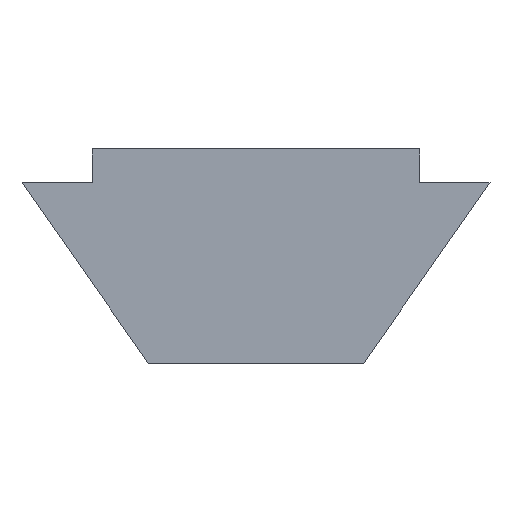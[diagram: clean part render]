
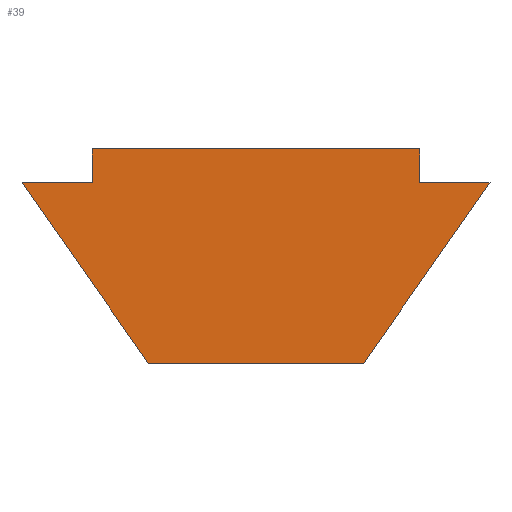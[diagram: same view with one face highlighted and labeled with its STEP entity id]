
A CAD part, front view. The second image highlights one B-rep face of the part: STEP entity #39.
In plain terms, the highlighted planar face has unit normal (0, -1, 0) as drawn and (0, 1, 0) by its records, which use the part's own axes.
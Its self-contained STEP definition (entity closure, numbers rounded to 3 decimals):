
#39=ADVANCED_FACE('',(#51),#429,.T.);
#51=FACE_OUTER_BOUND('',#65,.T.);
#65=EDGE_LOOP('',(#112,#113,#114,#115,#116,#117,#118,#119));
#112=ORIENTED_EDGE('',*,*,#286,.F.);
#113=ORIENTED_EDGE('',*,*,#290,.F.);
#114=ORIENTED_EDGE('',*,*,#295,.F.);
#115=ORIENTED_EDGE('',*,*,#298,.F.);
#116=ORIENTED_EDGE('',*,*,#301,.F.);
#117=ORIENTED_EDGE('',*,*,#304,.F.);
#118=ORIENTED_EDGE('',*,*,#309,.F.);
#119=ORIENTED_EDGE('',*,*,#311,.F.);
#136=PCURVE('',#420,#196);
#140=PCURVE('',#421,#200);
#146=PCURVE('',#422,#206);
#150=PCURVE('',#423,#210);
#154=PCURVE('',#424,#214);
#158=PCURVE('',#425,#218);
#164=PCURVE('',#426,#224);
#168=PCURVE('',#427,#228);
#178=PCURVE('',#429,#238);
#179=PCURVE('',#429,#239);
#180=PCURVE('',#429,#240);
#181=PCURVE('',#429,#241);
#182=PCURVE('',#429,#242);
#183=PCURVE('',#429,#243);
#184=PCURVE('',#429,#244);
#185=PCURVE('',#429,#245);
#196=DEFINITIONAL_REPRESENTATION('',(#319),#831);
#200=DEFINITIONAL_REPRESENTATION('',(#327),#831);
#206=DEFINITIONAL_REPRESENTATION('',(#336),#831);
#210=DEFINITIONAL_REPRESENTATION('',(#343),#831);
#214=DEFINITIONAL_REPRESENTATION('',(#350),#831);
#218=DEFINITIONAL_REPRESENTATION('',(#357),#831);
#224=DEFINITIONAL_REPRESENTATION('',(#366),#831);
#228=DEFINITIONAL_REPRESENTATION('',(#372),#831);
#238=DEFINITIONAL_REPRESENTATION('',(#382),#831);
#239=DEFINITIONAL_REPRESENTATION('',(#383),#831);
#240=DEFINITIONAL_REPRESENTATION('',(#384),#831);
#241=DEFINITIONAL_REPRESENTATION('',(#385),#831);
#242=DEFINITIONAL_REPRESENTATION('',(#386),#831);
#243=DEFINITIONAL_REPRESENTATION('',(#387),#831);
#244=DEFINITIONAL_REPRESENTATION('',(#388),#831);
#245=DEFINITIONAL_REPRESENTATION('',(#389),#831);
#256=SURFACE_CURVE('',#318,(#136,#178),.PCURVE_S1.);
#260=SURFACE_CURVE('',#326,(#140,#179),.PCURVE_S1.);
#265=SURFACE_CURVE('',#335,(#146,#180),.PCURVE_S1.);
#268=SURFACE_CURVE('',#342,(#150,#181),.PCURVE_S1.);
#271=SURFACE_CURVE('',#349,(#154,#182),.PCURVE_S1.);
#274=SURFACE_CURVE('',#356,(#158,#183),.PCURVE_S1.);
#279=SURFACE_CURVE('',#365,(#164,#184),.PCURVE_S1.);
#281=SURFACE_CURVE('',#371,(#168,#185),.PCURVE_S1.);
#286=EDGE_CURVE('',#400,#401,#256,.T.);
#290=EDGE_CURVE('',#403,#400,#260,.T.);
#295=EDGE_CURVE('',#405,#403,#265,.T.);
#298=EDGE_CURVE('',#407,#405,#268,.T.);
#301=EDGE_CURVE('',#409,#407,#271,.T.);
#304=EDGE_CURVE('',#411,#409,#274,.T.);
#309=EDGE_CURVE('',#413,#411,#279,.T.);
#311=EDGE_CURVE('',#401,#413,#281,.T.);
#318=B_SPLINE_CURVE_WITH_KNOTS('',1,(#577,#578),.UNSPECIFIED.,.F.,.F.,(2,
2),(0.,3.906),.UNSPECIFIED.);
#319=B_SPLINE_CURVE_WITH_KNOTS('',1,(#579,#580),.UNSPECIFIED.,.F.,.F.,(2,
2),(0.,3.906),.UNSPECIFIED.);
#326=B_SPLINE_CURVE_WITH_KNOTS('',1,(#593,#594),.UNSPECIFIED.,.F.,.F.,(2,
2),(-3.819,0.),.UNSPECIFIED.);
#327=B_SPLINE_CURVE_WITH_KNOTS('',1,(#595,#596),.UNSPECIFIED.,.F.,.F.,(2,
2),(-3.819,0.),.UNSPECIFIED.);
#335=B_SPLINE_CURVE_WITH_KNOTS('',1,(#655,#656),.UNSPECIFIED.,.F.,.F.,(2,
2),(-7.725,-3.819),.UNSPECIFIED.);
#336=B_SPLINE_CURVE_WITH_KNOTS('',1,(#657,#658),.UNSPECIFIED.,.F.,.F.,(2,
2),(-7.725,-3.819),.UNSPECIFIED.);
#342=B_SPLINE_CURVE_WITH_KNOTS('',1,(#669,#670),.UNSPECIFIED.,.F.,.F.,(2,
2),(-8.975,-7.725),.UNSPECIFIED.);
#343=B_SPLINE_CURVE_WITH_KNOTS('',1,(#671,#672),.UNSPECIFIED.,.F.,.F.,(2,
2),(-8.975,-7.725),.UNSPECIFIED.);
#349=B_SPLINE_CURVE_WITH_KNOTS('',1,(#683,#684),.UNSPECIFIED.,.F.,.F.,(2,
2),(-9.575,-8.975),.UNSPECIFIED.);
#350=B_SPLINE_CURVE_WITH_KNOTS('',1,(#685,#686),.UNSPECIFIED.,.F.,.F.,(2,
2),(-9.575,-8.975),.UNSPECIFIED.);
#356=B_SPLINE_CURVE_WITH_KNOTS('',1,(#697,#698),.UNSPECIFIED.,.F.,.F.,(2,
2),(-15.375,-9.575),.UNSPECIFIED.);
#357=B_SPLINE_CURVE_WITH_KNOTS('',1,(#699,#700),.UNSPECIFIED.,.F.,.F.,(2,
2),(-15.375,-9.575),.UNSPECIFIED.);
#365=B_SPLINE_CURVE_WITH_KNOTS('',1,(#759,#760),.UNSPECIFIED.,.F.,.F.,(2,
2),(-15.975,-15.375),.UNSPECIFIED.);
#366=B_SPLINE_CURVE_WITH_KNOTS('',1,(#761,#762),.UNSPECIFIED.,.F.,.F.,(2,
2),(-15.975,-15.375),.UNSPECIFIED.);
#371=B_SPLINE_CURVE_WITH_KNOTS('',1,(#771,#772),.UNSPECIFIED.,.F.,.F.,(2,
2),(-17.225,-15.975),.UNSPECIFIED.);
#372=B_SPLINE_CURVE_WITH_KNOTS('',1,(#773,#774),.UNSPECIFIED.,.F.,.F.,(2,
2),(-17.225,-15.975),.UNSPECIFIED.);
#382=B_SPLINE_CURVE_WITH_KNOTS('',1,(#793,#794),.UNSPECIFIED.,.F.,.F.,(2,
2),(0.,3.906),.UNSPECIFIED.);
#383=B_SPLINE_CURVE_WITH_KNOTS('',1,(#795,#796),.UNSPECIFIED.,.F.,.F.,(2,
2),(-3.819,0.),.UNSPECIFIED.);
#384=B_SPLINE_CURVE_WITH_KNOTS('',1,(#797,#798),.UNSPECIFIED.,.F.,.F.,(2,
2),(-7.725,-3.819),.UNSPECIFIED.);
#385=B_SPLINE_CURVE_WITH_KNOTS('',1,(#799,#800),.UNSPECIFIED.,.F.,.F.,(2,
2),(-8.975,-7.725),.UNSPECIFIED.);
#386=B_SPLINE_CURVE_WITH_KNOTS('',1,(#801,#802),.UNSPECIFIED.,.F.,.F.,(2,
2),(-9.575,-8.975),.UNSPECIFIED.);
#387=B_SPLINE_CURVE_WITH_KNOTS('',1,(#803,#804),.UNSPECIFIED.,.F.,.F.,(2,
2),(-15.375,-9.575),.UNSPECIFIED.);
#388=B_SPLINE_CURVE_WITH_KNOTS('',1,(#805,#806),.UNSPECIFIED.,.F.,.F.,(2,
2),(-15.975,-15.375),.UNSPECIFIED.);
#389=B_SPLINE_CURVE_WITH_KNOTS('',1,(#807,#808),.UNSPECIFIED.,.F.,.F.,(2,
2),(-17.225,-15.975),.UNSPECIFIED.);
#400=VERTEX_POINT('',#551);
#401=VERTEX_POINT('',#552);
#403=VERTEX_POINT('',#554);
#405=VERTEX_POINT('',#556);
#407=VERTEX_POINT('',#558);
#409=VERTEX_POINT('',#560);
#411=VERTEX_POINT('',#562);
#413=VERTEX_POINT('',#564);
#420=PLANE('',#471);
#421=PLANE('',#472);
#422=PLANE('',#473);
#423=PLANE('',#474);
#424=PLANE('',#475);
#425=PLANE('',#476);
#426=PLANE('',#477);
#427=PLANE('',#478);
#429=PLANE('',#480);
#471=AXIS2_PLACEMENT_3D('',#503,#487,$);
#472=AXIS2_PLACEMENT_3D('',#504,#488,$);
#473=AXIS2_PLACEMENT_3D('',#505,#489,$);
#474=AXIS2_PLACEMENT_3D('',#506,#490,$);
#475=AXIS2_PLACEMENT_3D('',#507,#491,$);
#476=AXIS2_PLACEMENT_3D('',#508,#492,$);
#477=AXIS2_PLACEMENT_3D('',#509,#493,$);
#478=AXIS2_PLACEMENT_3D('',#510,#494,$);
#480=AXIS2_PLACEMENT_3D('',#512,#496,$);
#487=DIRECTION('',(-0.574,0.,-0.819));
#488=DIRECTION('',(-1.,0.,0.));
#489=DIRECTION('',(-0.574,0.,0.819));
#490=DIRECTION('',(1.,0.,0.));
#491=DIRECTION('',(0.,0.,1.));
#492=DIRECTION('',(1.,0.,0.));
#493=DIRECTION('',(0.,0.,-1.));
#494=DIRECTION('',(1.,0.,0.));
#496=DIRECTION('',(0.,1.,0.));
#503=CARTESIAN_POINT('',(-0.6,-11.,-4.15));
#504=CARTESIAN_POINT('',(-3.8,-11.,-1.909));
#505=CARTESIAN_POINT('',(-3.8,-11.,1.909));
#506=CARTESIAN_POINT('',(-0.6,-11.,4.15));
#507=CARTESIAN_POINT('',(-0.6,-11.,2.9));
#508=CARTESIAN_POINT('',(0.,-11.,2.9));
#509=CARTESIAN_POINT('',(0.,-11.,-2.9));
#510=CARTESIAN_POINT('',(-0.6,-11.,-2.9));
#512=CARTESIAN_POINT('',(-4.275,6.,5.188));
#551=CARTESIAN_POINT('',(-3.8,6.,-1.909));
#552=CARTESIAN_POINT('',(-0.6,6.,-4.15));
#554=CARTESIAN_POINT('',(-3.8,6.,1.909));
#556=CARTESIAN_POINT('',(-0.6,6.,4.15));
#558=CARTESIAN_POINT('',(-0.6,6.,2.9));
#560=CARTESIAN_POINT('',(0.,6.,2.9));
#562=CARTESIAN_POINT('',(0.,6.,-2.9));
#564=CARTESIAN_POINT('',(-0.6,6.,-2.9));
#577=CARTESIAN_POINT('',(-3.8,6.,-1.909));
#578=CARTESIAN_POINT('',(-0.6,6.,-4.15));
#579=CARTESIAN_POINT('',(0.,17.));
#580=CARTESIAN_POINT('',(-3.906,17.));
#593=CARTESIAN_POINT('',(-3.8,6.,1.909));
#594=CARTESIAN_POINT('',(-3.8,6.,-1.909));
#595=CARTESIAN_POINT('',(3.819,17.));
#596=CARTESIAN_POINT('',(0.,17.));
#655=CARTESIAN_POINT('',(-0.6,6.,4.15));
#656=CARTESIAN_POINT('',(-3.8,6.,1.909));
#657=CARTESIAN_POINT('',(7.725,17.));
#658=CARTESIAN_POINT('',(3.819,17.));
#669=CARTESIAN_POINT('',(-0.6,6.,2.9));
#670=CARTESIAN_POINT('',(-0.6,6.,4.15));
#671=CARTESIAN_POINT('',(8.975,17.));
#672=CARTESIAN_POINT('',(7.725,17.));
#683=CARTESIAN_POINT('',(0.,6.,2.9));
#684=CARTESIAN_POINT('',(-0.6,6.,2.9));
#685=CARTESIAN_POINT('',(9.575,17.));
#686=CARTESIAN_POINT('',(8.975,17.));
#697=CARTESIAN_POINT('',(0.,6.,-2.9));
#698=CARTESIAN_POINT('',(0.,6.,2.9));
#699=CARTESIAN_POINT('',(15.375,17.));
#700=CARTESIAN_POINT('',(9.575,17.));
#759=CARTESIAN_POINT('',(-0.6,6.,-2.9));
#760=CARTESIAN_POINT('',(0.,6.,-2.9));
#761=CARTESIAN_POINT('',(15.975,17.));
#762=CARTESIAN_POINT('',(15.375,17.));
#771=CARTESIAN_POINT('',(-0.6,6.,-4.15));
#772=CARTESIAN_POINT('',(-0.6,6.,-2.9));
#773=CARTESIAN_POINT('',(17.225,17.));
#774=CARTESIAN_POINT('',(15.975,17.));
#793=CARTESIAN_POINT('',(-3.2,-2.241));
#794=CARTESIAN_POINT('',(0.,0.));
#795=CARTESIAN_POINT('',(-3.2,-6.059));
#796=CARTESIAN_POINT('',(-3.2,-2.241));
#797=CARTESIAN_POINT('',(0.,-8.3));
#798=CARTESIAN_POINT('',(-3.2,-6.059));
#799=CARTESIAN_POINT('',(0.,-7.05));
#800=CARTESIAN_POINT('',(0.,-8.3));
#801=CARTESIAN_POINT('',(0.6,-7.05));
#802=CARTESIAN_POINT('',(0.,-7.05));
#803=CARTESIAN_POINT('',(0.6,-1.25));
#804=CARTESIAN_POINT('',(0.6,-7.05));
#805=CARTESIAN_POINT('',(0.,-1.25));
#806=CARTESIAN_POINT('',(0.6,-1.25));
#807=CARTESIAN_POINT('',(0.,0.));
#808=CARTESIAN_POINT('',(0.,-1.25));
#831=(
GEOMETRIC_REPRESENTATION_CONTEXT(2)
PARAMETRIC_REPRESENTATION_CONTEXT()
REPRESENTATION_CONTEXT('pspace','')
);
